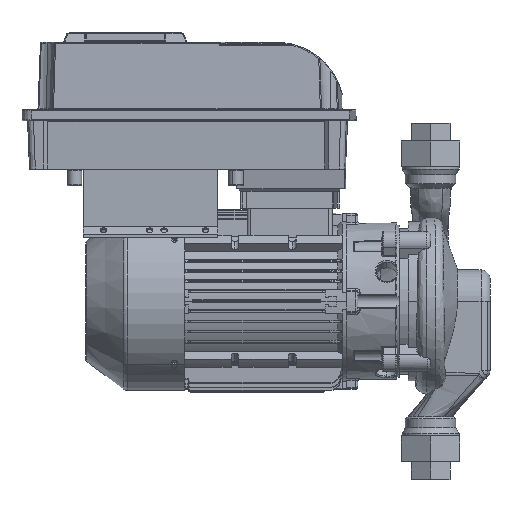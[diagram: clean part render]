
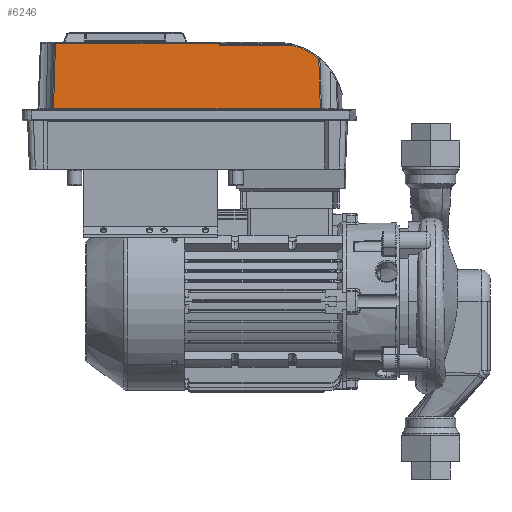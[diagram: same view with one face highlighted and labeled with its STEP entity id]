
A CAD part, left-side view. The second image highlights one B-rep face of the part: STEP entity #6246.
In plain terms, the highlighted planar face has unit normal (-0.999, 0, 0.035) as drawn and (0.999, 0, -0.035) by its records, which use the part's own axes.
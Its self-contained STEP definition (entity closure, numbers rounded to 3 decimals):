
#6246=ADVANCED_FACE('',(#13143),#13144,.F.);
#13143=FACE_OUTER_BOUND('',#29506,.T.);
#13144=PLANE('',#29507);
#29506=EDGE_LOOP('',(#53909,#53910,#53911,#53912,#53913,#53914,#53915));
#29507=AXIS2_PLACEMENT_3D('',#53916,#53917,#53918);
#53909=ORIENTED_EDGE('',*,*,#101026,.T.);
#53910=ORIENTED_EDGE('',*,*,#101014,.F.);
#53911=ORIENTED_EDGE('',*,*,#100233,.F.);
#53912=ORIENTED_EDGE('',*,*,#101027,.F.);
#53913=ORIENTED_EDGE('',*,*,#100160,.F.);
#53914=ORIENTED_EDGE('',*,*,#101028,.F.);
#53915=ORIENTED_EDGE('',*,*,#101029,.F.);
#53916=CARTESIAN_POINT('',(-14.0,85.982,60.0));
#53917=DIRECTION('',(-0.999,0.,0.035));
#53918=DIRECTION('',(0.035,-0.0,0.999));
#100160=EDGE_CURVE('',#131051,#131053,#131054,.T.);
#100233=EDGE_CURVE('',#131179,#131181,#131182,.T.);
#101014=EDGE_CURVE('',#131181,#132299,#132300,.T.);
#101026=EDGE_CURVE('',#132314,#132299,#132315,.T.);
#101027=EDGE_CURVE('',#131053,#131179,#132316,.T.);
#101028=EDGE_CURVE('',#132317,#131051,#132318,.T.);
#101029=EDGE_CURVE('',#132314,#132317,#132319,.T.);
#131051=VERTEX_POINT('',#153778);
#131053=VERTEX_POINT('',#153798);
#131054=LINE('',#153799,#153800);
#131179=VERTEX_POINT('',#154346);
#131181=VERTEX_POINT('',#154359);
#131182=LINE('',#154360,#154361);
#132299=VERTEX_POINT('',#157173);
#132300=LINE('',#157174,#157175);
#132314=VERTEX_POINT('',#157212);
#132315=LINE('',#157213,#157214);
#132316=B_SPLINE_CURVE_WITH_KNOTS('',3,(#157215,#157216,#157217,#157218,#157219,#157220,#157221,#157222,#157223,#157224,#157225,#157226,#157227,#157228,#157229,#157230,#157231,#157232),.UNSPECIFIED.,.F.,.F.,(4,2,2,2,2,2,2,2,4),(-60.135,-51.622,-41.425,-35.052,-31.069,-27.085,-20.712,-10.516,-2.002),.UNSPECIFIED.);
#132317=VERTEX_POINT('',#157233);
#132318=B_SPLINE_CURVE_WITH_KNOTS('',3,(#157234,#157235,#157236,#157237,#157238,#157239,#157240,#157241,#157242,#157243,#157244,#157245,#157246,#157247,#157248,#157249,#157250,#157251),.UNSPECIFIED.,.F.,.F.,(4,2,2,2,2,2,2,2,4),(2.165,8.251,16.253,21.254,24.379,27.505,32.505,40.507,46.752),.UNSPECIFIED.);
#132319=ELLIPSE('',#157252,59.036,59.0);
#153778=CARTESIAN_POINT('',(-14.034,39.053,59.035));
#153798=CARTESIAN_POINT('',(-14.034,277.053,59.035));
#153799=CARTESIAN_POINT('',(-14.034,243.721,59.035));
#153800=VECTOR('',#190158,1.0);
#154346=CARTESIAN_POINT('',(-16.062,275.263,0.965));
#154359=CARTESIAN_POINT('',(-16.062,129.042,0.965));
#154360=CARTESIAN_POINT('',(-16.062,42.991,0.965));
#154361=VECTOR('',#190235,1.0);
#157173=CARTESIAN_POINT('',(-15.992,129.042,2.965));
#157174=CARTESIAN_POINT('',(-15.027,129.042,30.598));
#157175=VECTOR('',#191028,1.0);
#157212=CARTESIAN_POINT('',(-15.992,62.811,2.965));
#157213=CARTESIAN_POINT('',(-15.992,107.012,2.965));
#157214=VECTOR('',#191043,1.0);
#157215=CARTESIAN_POINT('',(-14.034,277.053,59.035));
#157216=CARTESIAN_POINT('',(-14.133,276.961,56.2));
#157217=CARTESIAN_POINT('',(-14.232,276.869,53.366));
#157218=CARTESIAN_POINT('',(-14.449,276.669,47.136));
#157219=CARTESIAN_POINT('',(-14.568,276.561,43.741));
#157220=CARTESIAN_POINT('',(-14.76,276.388,38.224));
#157221=CARTESIAN_POINT('',(-14.835,276.322,36.102));
#157222=CARTESIAN_POINT('',(-14.955,276.215,32.653));
#157223=CARTESIAN_POINT('',(-15.001,276.174,31.327));
#157224=CARTESIAN_POINT('',(-15.094,276.092,28.675));
#157225=CARTESIAN_POINT('',(-15.14,276.051,27.348));
#157226=CARTESIAN_POINT('',(-15.261,275.946,23.9));
#157227=CARTESIAN_POINT('',(-15.335,275.882,21.778));
#157228=CARTESIAN_POINT('',(-15.527,275.715,16.26));
#157229=CARTESIAN_POINT('',(-15.646,275.614,12.865));
#157230=CARTESIAN_POINT('',(-15.864,275.429,6.635));
#157231=CARTESIAN_POINT('',(-15.963,275.346,3.8));
#157232=CARTESIAN_POINT('',(-16.062,275.263,0.965));
#157233=CARTESIAN_POINT('',(-15.589,40.444,14.496));
#157234=CARTESIAN_POINT('',(-15.589,40.444,14.496));
#157235=CARTESIAN_POINT('',(-15.518,40.384,16.523));
#157236=CARTESIAN_POINT('',(-15.447,40.323,18.55));
#157237=CARTESIAN_POINT('',(-15.284,40.181,23.241));
#157238=CARTESIAN_POINT('',(-15.191,40.1,25.905));
#157239=CARTESIAN_POINT('',(-15.039,39.967,30.235));
#157240=CARTESIAN_POINT('',(-14.981,39.915,31.9));
#157241=CARTESIAN_POINT('',(-14.887,39.832,34.606));
#157242=CARTESIAN_POINT('',(-14.85,39.799,35.646));
#157243=CARTESIAN_POINT('',(-14.778,39.734,37.728));
#157244=CARTESIAN_POINT('',(-14.741,39.702,38.768));
#157245=CARTESIAN_POINT('',(-14.647,39.617,41.474));
#157246=CARTESIAN_POINT('',(-14.589,39.564,43.139));
#157247=CARTESIAN_POINT('',(-14.438,39.427,47.469));
#157248=CARTESIAN_POINT('',(-14.345,39.342,50.133));
#157249=CARTESIAN_POINT('',(-14.179,39.189,54.876));
#157250=CARTESIAN_POINT('',(-14.106,39.121,56.956));
#157251=CARTESIAN_POINT('',(-14.034,39.053,59.035));
#157252=AXIS2_PLACEMENT_3D('',#191044,#191045,#191046);
#190158=DIRECTION('',(0.,1.0,0.0));
#190235=DIRECTION('',(0.,-1.0,0.0));
#191028=DIRECTION('',(0.035,-0.0,0.999));
#191043=DIRECTION('',(0.,1.0,0.0));
#191044=CARTESIAN_POINT('',(-14.001,78.042,59.965));
#191045=DIRECTION('',(-0.999,0.,0.035));
#191046=DIRECTION('',(-0.035,0.,-0.999));
